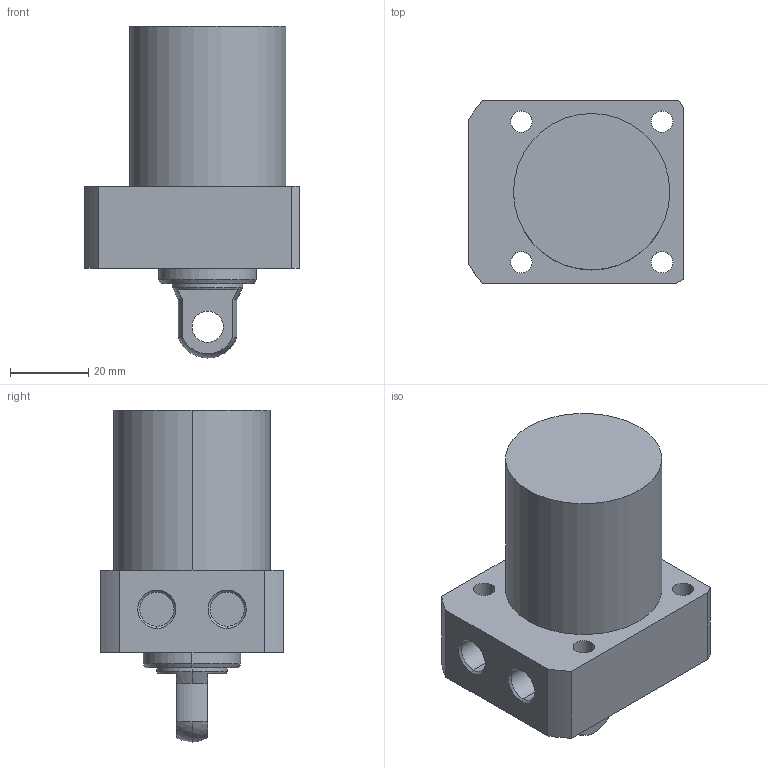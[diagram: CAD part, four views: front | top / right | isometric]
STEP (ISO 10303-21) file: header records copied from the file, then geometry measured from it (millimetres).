
FILE_DESCRIPTION (( 'STEP AP203' ), '1' );
FILE_NAME ('CLL-R040-CP-030.STEP', '2017-05-10T11:31:45', ( '' ), ( '' ), 'SwSTEP 2.0', 'SolidWorks 2015', '' );
FILE_SCHEMA (( 'CONFIG_CONTROL_DESIGN' ));
Length unit declared in the file: millimetre
Products named in the file (1): CLL-R040-CP-030
Bounding box: 55 x 47 x 85 mm (x, y, z)
Volume: 105212.1 mm3; surface area: 17649.5 mm2
Topology: 1 solids, 1 shells, 57 faces, 135 edges, 87 vertices
Faces by surface type: cylinder 29, plane 18, cone 8, sphere 2
Entity records: 1770 total; most frequent: DIRECTION 319, CARTESIAN_POINT 292, ORIENTED_EDGE 270, EDGE_CURVE 135, AXIS2_PLACEMENT_3D 130, VERTEX_POINT 87, EDGE_LOOP 74, CIRCLE 72
